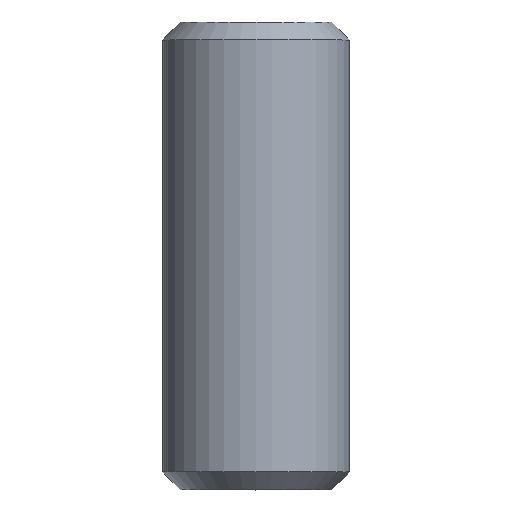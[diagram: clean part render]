
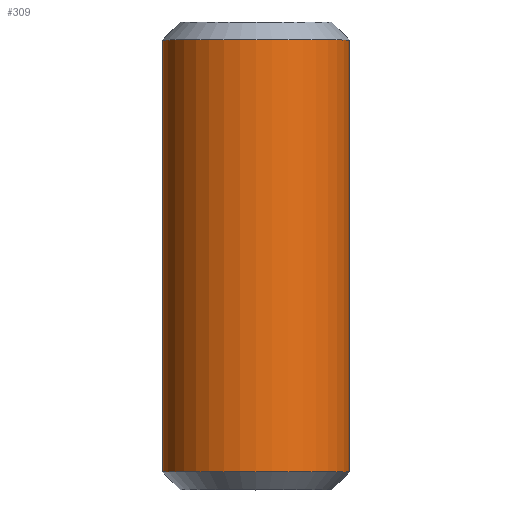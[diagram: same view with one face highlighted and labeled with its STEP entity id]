
A CAD part, top view. The second image highlights one B-rep face of the part: STEP entity #309.
In plain terms, the highlighted cylindrical face has radius 6 mm (diameter 12 mm), a full revolution.
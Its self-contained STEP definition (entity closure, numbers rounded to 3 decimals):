
#21=CYLINDRICAL_SURFACE('',#346,6.);
#84=ORIENTED_EDGE('',*,*,#159,.F.);
#85=ORIENTED_EDGE('',*,*,#158,.T.);
#158=EDGE_CURVE('',#196,#196,#217,.T.);
#159=EDGE_CURVE('',#197,#197,#218,.T.);
#196=VERTEX_POINT('',#494);
#197=VERTEX_POINT('',#497);
#217=CIRCLE('',#345,6.);
#218=CIRCLE('',#347,6.);
#234=EDGE_LOOP('',(#84));
#235=EDGE_LOOP('',(#85));
#264=FACE_BOUND('',#234,.T.);
#265=FACE_BOUND('',#235,.T.);
#309=ADVANCED_FACE('',(#264,#265),#21,.T.);
#345=AXIS2_PLACEMENT_3D('',#493,#392,#393);
#346=AXIS2_PLACEMENT_3D('',#495,#394,#395);
#347=AXIS2_PLACEMENT_3D('',#496,#396,#397);
#392=DIRECTION('',(0.,-1.,0.));
#393=DIRECTION('',(1.,0.,0.));
#394=DIRECTION('',(0.,-1.,0.));
#395=DIRECTION('',(1.,0.,0.));
#396=DIRECTION('',(0.,-1.,0.));
#397=DIRECTION('',(1.,0.,0.));
#493=CARTESIAN_POINT('',(0.,28.85,0.));
#494=CARTESIAN_POINT('',(6.,28.85,0.));
#495=CARTESIAN_POINT('',(0.,0.,0.));
#496=CARTESIAN_POINT('',(0.,1.15,0.));
#497=CARTESIAN_POINT('',(6.,1.15,0.));
